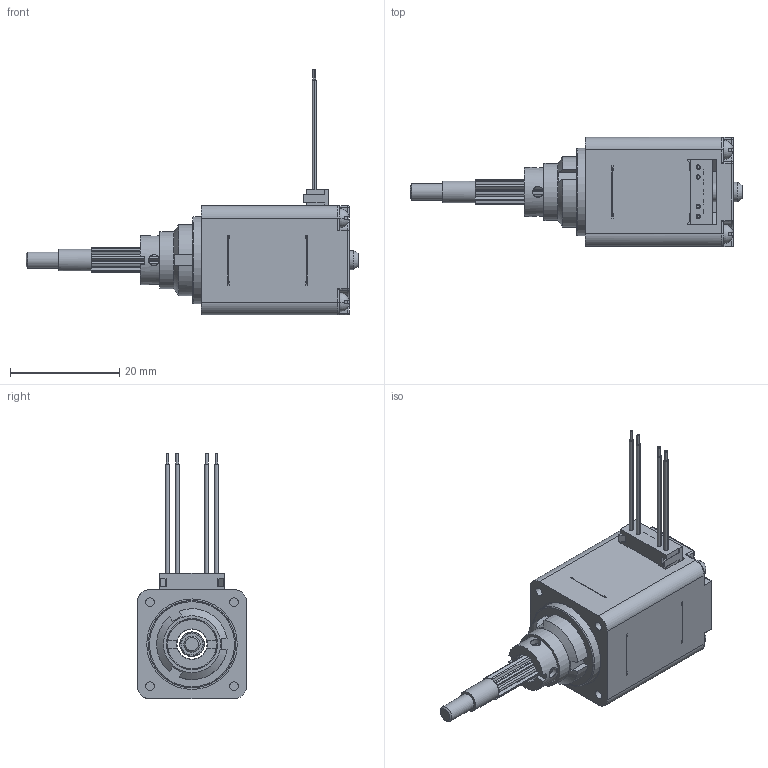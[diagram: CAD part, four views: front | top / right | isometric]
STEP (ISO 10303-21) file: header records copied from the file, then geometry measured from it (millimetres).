
FILE_DESCRIPTION( ('This file contains a STEP AP42 implementation' ,'as created by ZW3D STEP Interface translator.' ,'') ,'2;1' );
FILE_NAME( '21CA4X-XX-XXX-301.stp' ,'251231.14 8 8', (''), ('ZWCAD Software Co.'), 'Version 1.0', 'ZW3D to STEP translator', '' );
FILE_SCHEMA(('AUTOMOTIVE_DESIGN { 1 0 10303 214 1 1 1 1 }'));
Length unit declared in the file: millimetre
Products named in the file (1): 0
Bounding box: 60.86 x 20 x 45 mm (x, y, z)
Volume: 647.1 mm3; surface area: 8913.5 mm2
Topology: 1 solids, 2 shells, 710 faces, 1985 edges, 1264 vertices
Faces by surface type: plane 459, cylinder 181, bspline 43, cone 11, torus 8, sphere 8
Full cylindrical faces by diameter (mm): 0.67 x8, 1.6 x4, 2 x4, 2.2 x4, 3 x1, 3.56 x1, 3.96 x1, 5.5 x1, 5.6 x1, 8 x1, 9 x3, 9.4 x1, 10.45 x1, 12.24 x1, 16 x1, 16.6 x2
Entity records: 24973 total; most frequent: CARTESIAN_POINT 5707, ORIENTED_EDGE 3954, DIRECTION 3817, EDGE_CURVE 1978, VECTOR 1273, LINE 1273, AXIS2_PLACEMENT_3D 1272, VERTEX_POINT 1264
